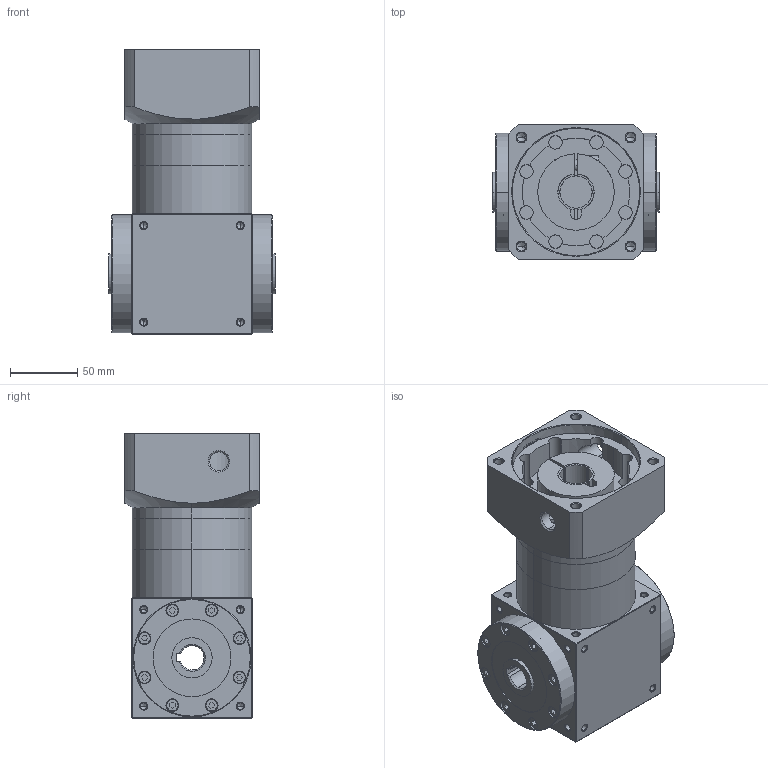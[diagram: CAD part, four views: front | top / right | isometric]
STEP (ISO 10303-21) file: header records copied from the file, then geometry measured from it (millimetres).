
FILE_DESCRIPTION (( 'STEP AP203' ), '1' );
FILE_NAME ('AT090-FH-L2-24-95-115M8.STEP', '2025-08-13T03:54:51', ( 'Windows User' ), ( 'P R C' ), 'SwSTEP 2.0', 'SolidWorks 2016', '' );
FILE_SCHEMA (( 'CONFIG_CONTROL_DESIGN' ));
Length unit declared in the file: millimetre
Products named in the file (6): AT090-蛌褒眊极-謂-怀堤; AT090-蛌倰怀堤楊擘; AT090-单级齿圈; AT090-输入法兰-J-2-50-95-M8-115-方100; 输入胀套-27; AT090-FH-L2-24-95-115M8
Assembly tree (5 placements, depth 2):
  AT090-FH-L2-24-95-115M8
    AT090-蛌褒眊极-謂-怀堤
    AT090-蛌倰怀堤楊擘
    AT090-单级齿圈
    AT090-输入法兰-J-2-50-95-M8-115-方100
    输入胀套-27
Bounding box: 124 x 100 x 212 mm (x, y, z)
Volume: 1320456.3 mm3; surface area: 229570.3 mm2
Topology: 5 solids, 17 shells, 1434 faces, 3707 edges, 2338 vertices
Faces by surface type: plane 719, cylinder 317, cone 230, bspline 168
Entity records: 50838 total; most frequent: CARTESIAN_POINT 16825, ORIENTED_EDGE 7230, DIRECTION 6308, EDGE_CURVE 3615, LINE 2354, VECTOR 2354, VERTEX_POINT 2338, AXIS2_PLACEMENT_3D 1977
